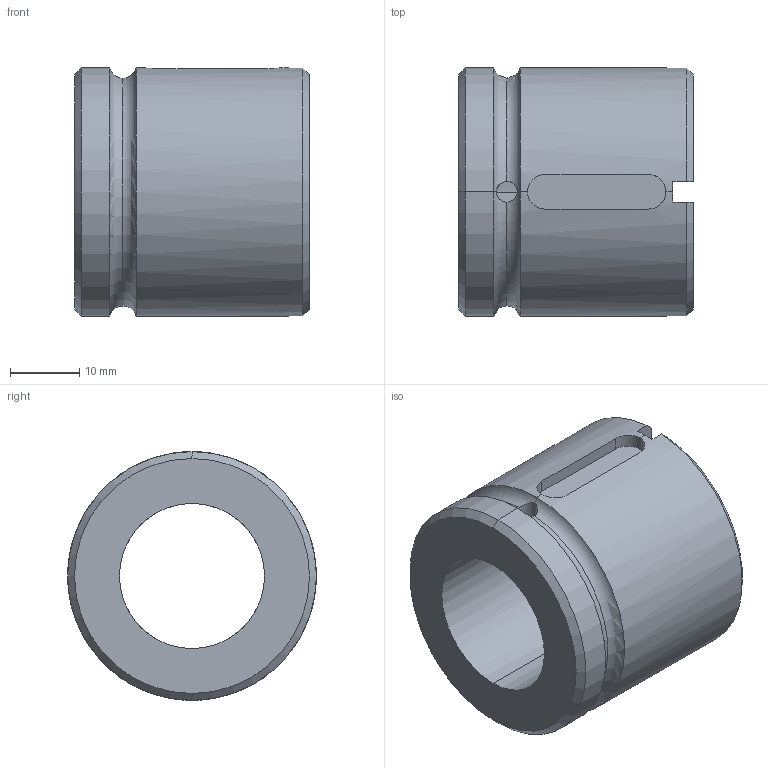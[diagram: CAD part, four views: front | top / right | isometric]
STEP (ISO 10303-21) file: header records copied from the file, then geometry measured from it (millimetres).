
FILE_DESCRIPTION (( 'STEP AP214' ), '1' );
FILE_NAME ('KGM-D 2005.STEP', '2021-01-18T08:59:20', ( 'user' ), ( 'datathink' ), 'SwSTEP 2.0', 'SolidWorks 2013', '' );
FILE_SCHEMA (( 'AUTOMOTIVE_DESIGN' ));
Length unit declared in the file: millimetre
Products named in the file (1): KGM-D 2005
Bounding box: 34 x 36 x 36 mm (x, y, z)
Volume: 21890.7 mm3; surface area: 7608 mm2
Topology: 1 solids, 1 shells, 31 faces, 84 edges, 52 vertices
Faces by surface type: plane 12, cylinder 11, torus 4, cone 4
Entity records: 1169 total; most frequent: CARTESIAN_POINT 348, ORIENTED_EDGE 168, DIRECTION 167, EDGE_CURVE 84, AXIS2_PLACEMENT_3D 65, VERTEX_POINT 52, VECTOR 37, LINE 37
